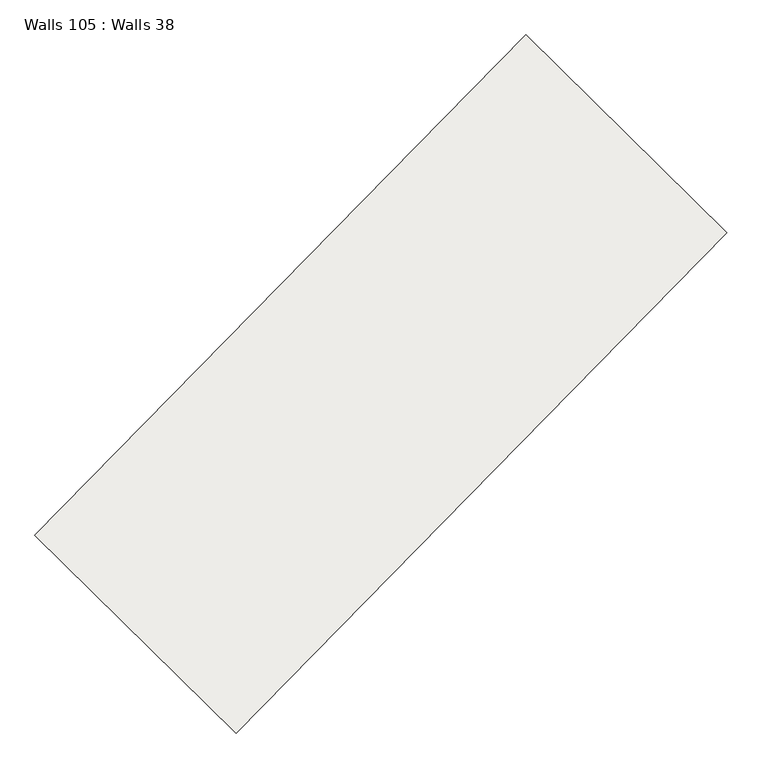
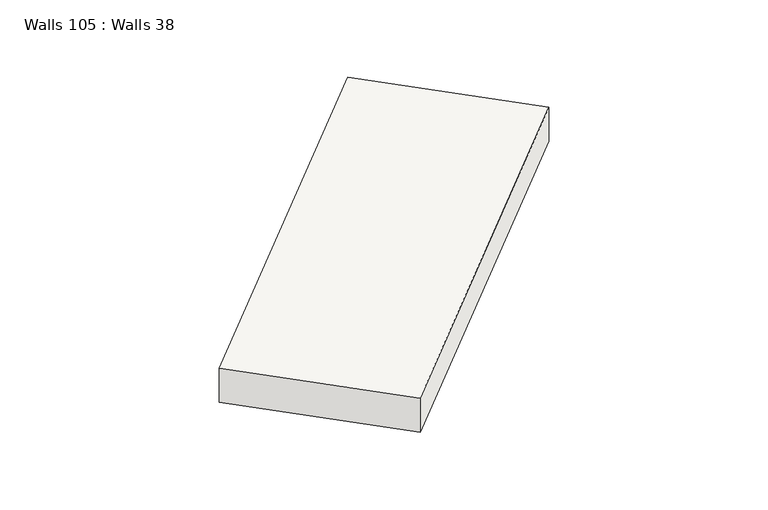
"""IFC4 building model written with IfcOpenShell, lengths in millimetres: slab geometry, Walls 105 : Walls 38."""

from ifc_helpers import new_model, si_unit, frame, origin, place, context, project, spatial, polyline, outline, extrude, source, transform, mapped, element, save


def walls_105_walls_38_f23b7ffd(model_context):
    return source(origin(), model_context, "Body", "SweptSolid", [
        extrude(outline(polyline([(-350.0, 0.0), (350.0, 0.0), (260.0, -8699.9999995), (-440.0, -8699.9999995), (-350.0, 0.0)])), frame((-152361.6876568, -314461.7885989, 636230.0), z_axis=(-0.7137361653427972, 0.7004146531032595, 0.0), x_axis=(0.0, 0.0, 1.0)), (0.0, 0.0, 1.0), 3499.999995),
    ])


if __name__ == "__main__":
    model = new_model("IFC4")
    model_context = context("Model", 3, world=origin())
    ifc_project = project(units=[si_unit("LENGTHUNIT", "METRE", prefix="MILLI")], contexts=[model_context])
    site = spatial("IfcSite", under=ifc_project)
    building = spatial("IfcBuilding", under=site)
    placement = place(None, origin())
    walls_105_walls_38_shape = walls_105_walls_38_f23b7ffd(model_context)
    element("IfcSlab", 1, ObjectType="Walls 105 : Walls 38", at=placement, inside=building, context=model_context, shape_type="MappedRepresentation", body=[
        mapped(walls_105_walls_38_shape, transform((0.0, 0.0, 0.0), x_axis=(1.0, 0.0, 0.0), y_axis=(0.0, 1.0, 0.0), z_axis=(0.0, 0.0, 1.0))),
    ])
    save(model, "model.ifc")
